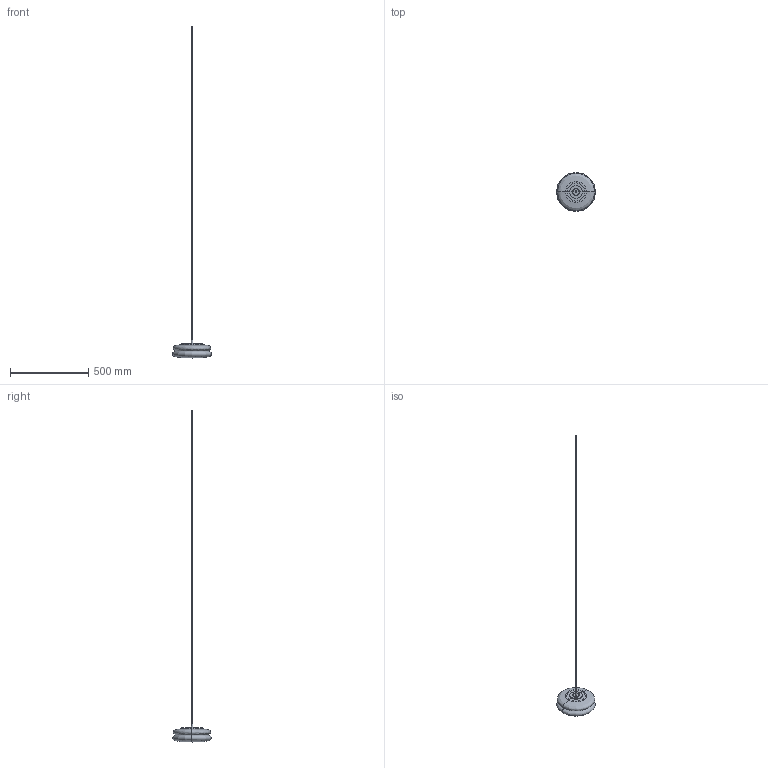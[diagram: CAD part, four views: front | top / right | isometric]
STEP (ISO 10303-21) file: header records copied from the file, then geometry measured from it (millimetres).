
FILE_DESCRIPTION(/* description */ (''),/* implementation_level */ '2;1');
FILE_NAME(/* name */ 'SNOWMAN25 P',/* time_stamp */ '2026-08-05T17:12:08+09:00',/* author */ (''),/* organization */ (''),/* preprocessor_version */ 'ST-DEVELOPER v19.2',/* originating_system */ 'Rhino 8.21',/* authorisation */ '');
FILE_SCHEMA (('CONFIG_CONTROL_DESIGN'));
Length unit declared in the file: millimetre
Products named in the file (1): Document
Bounding box: 249.98 x 250 x 2119.84 mm (x, y, z)
Volume: 3446474.7 mm3; surface area: 196936.7 mm2
Topology: 1 solids, 2 shells, 24 faces, 48 edges, 25 vertices
Faces by surface type: cylinder 12, plane 10, bspline 2
Entity records: 1184 total; most frequent: CARTESIAN_POINT 666, ORIENTED_EDGE 90, DIRECTION 76, AXIS2_PLACEMENT_3D 49, EDGE_CURVE 46, VERTEX_POINT 25, ADVANCED_FACE 24, FACE_OUTER_BOUND 24
